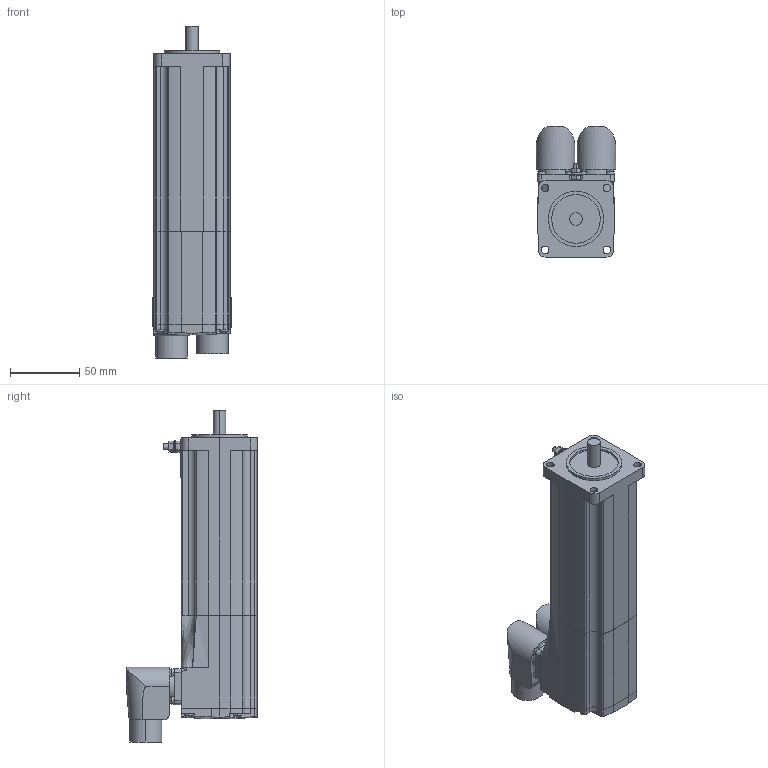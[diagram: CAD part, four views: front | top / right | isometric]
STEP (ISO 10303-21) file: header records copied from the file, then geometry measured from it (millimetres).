
FILE_DESCRIPTION (( 'STEP AP214' ), '1' );
FILE_NAME ('SH30553x0xF2100.STEP', '2013-11-29T07:26:09', ( 'Windows User' ), ( 'Schneider-Electric' ), 'SwSTEP 2.0', 'SolidWorks 2010', '' );
FILE_SCHEMA (( 'AUTOMOTIVE_DESIGN' ));
Length unit declared in the file: millimetre
Products named in the file (7): 1-100011007_K-TOPFGEHÄUSE SH3-055X_000_Topfgehäuse SH30553 ohne Passfeder; 1-100011008_K-LAGERSCHILD SH3-055X-A UND F_000_Lagerschild SH3-055x-F; 1-100011009_K-DECKEL SH3-055X_000_Deckel SH3-055x; 1-100011011_K-ERDUNGSBOLZEN M4_000; K-ENCODER-CONINVERS-ABGEW_ENCODER-CONINVERS-ABGEWINKELT_000_Single- MultiTurn; K-POWER-CONINVERS-ABGEWIN_POWER-CONINVERS-ABGEWINKELT_000_mit Bremse; SH30553x0xF2100
Assembly tree (6 placements, depth 2):
  SH30553x0xF2100
    1-100011011_K-ERDUNGSBOLZEN M4_000
    1-100011009_K-DECKEL SH3-055X_000_Deckel SH3-055x
    K-ENCODER-CONINVERS-ABGEW_ENCODER-CONINVERS-ABGEWINKELT_000_Single- MultiTurn
    K-POWER-CONINVERS-ABGEWIN_POWER-CONINVERS-ABGEWINKELT_000_mit Bremse
    1-100011008_K-LAGERSCHILD SH3-055X-A UND F_000_Lagerschild SH3-055x-F
    1-100011007_K-TOPFGEHÄUSE SH3-055X_000_Topfgehäuse SH30553 ohne Passfeder
Bounding box: 57.5 x 94.5 x 239.45 mm (x, y, z)
Volume: 613747.2 mm3; surface area: 76638.1 mm2
Topology: 6 solids, 6 shells, 400 faces, 997 edges, 658 vertices
Faces by surface type: cylinder 193, plane 170, torus 16, bspline 12, cone 5, sphere 4
Entity records: 13684 total; most frequent: CARTESIAN_POINT 3561, DIRECTION 2163, ORIENTED_EDGE 1990, EDGE_CURVE 995, AXIS2_PLACEMENT_3D 850, VERTEX_POINT 658, LINE 463, VECTOR 463
